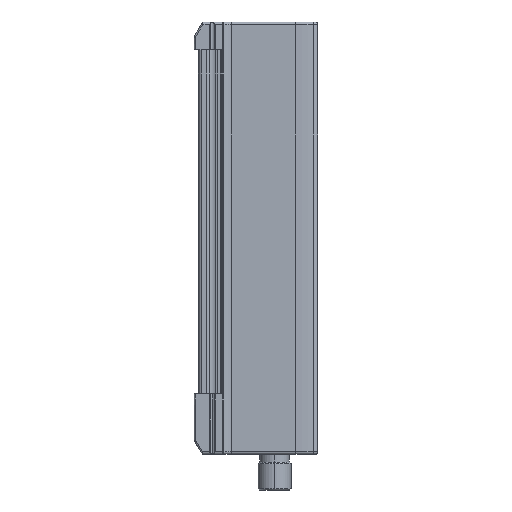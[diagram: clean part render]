
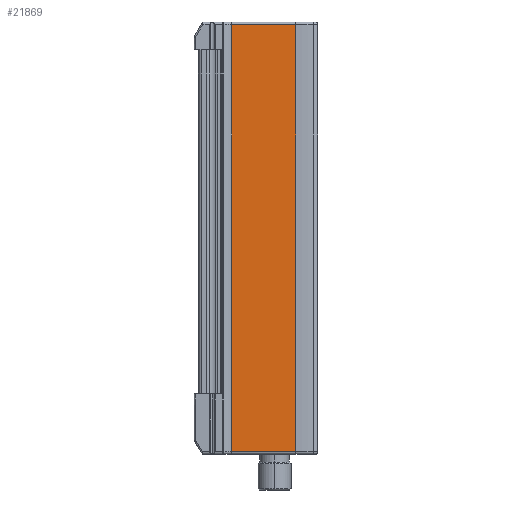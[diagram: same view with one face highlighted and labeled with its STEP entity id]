
A CAD part, left-side view. The second image highlights one B-rep face of the part: STEP entity #21869.
In plain terms, the highlighted planar face has unit normal (-1, 0, 0).
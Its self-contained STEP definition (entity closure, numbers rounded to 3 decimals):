
#315 = ORIENTED_EDGE ( 'NONE', *, *, #7257, .F. ) ;
#398 = CARTESIAN_POINT ( 'NONE',  ( -22.5, -14.5, -21. ) ) ;
#1053 = DIRECTION ( 'NONE',  ( 0., -1., 0. ) ) ;
#1140 = VERTEX_POINT ( 'NONE', #21117 ) ;
#2436 = EDGE_CURVE ( 'NONE', #24046, #11896, #24249, .T. ) ;
#3342 = EDGE_LOOP ( 'NONE', ( #315, #21255, #10866, #16208 ) ) ;
#3448 = EDGE_CURVE ( 'NONE', #11896, #18635, #11831, .T. ) ;
#3755 = CARTESIAN_POINT ( 'NONE',  ( -22.5, -14.5, 125. ) ) ;
#3853 = DIRECTION ( 'NONE',  ( 0., -1., 0. ) ) ;
#4259 = EDGE_CURVE ( 'NONE', #1140, #24046, #9877, .T. ) ;
#4496 = VECTOR ( 'NONE', #3853, 1000. ) ;
#7257 = EDGE_CURVE ( 'NONE', #1140, #18635, #14043, .T. ) ;
#9120 = FACE_OUTER_BOUND ( 'NONE', #3342, .T. ) ;
#9769 = DIRECTION ( 'NONE',  ( 0., 0., -1. ) ) ;
#9797 = CARTESIAN_POINT ( 'NONE',  ( -22.5, -14.5, -21. ) ) ;
#9877 = LINE ( 'NONE', #18139, #13647 ) ;
#10049 = VECTOR ( 'NONE', #9769, 1000. ) ;
#10866 = ORIENTED_EDGE ( 'NONE', *, *, #2436, .T. ) ;
#11099 = VECTOR ( 'NONE', #20274, 1000. ) ;
#11831 = LINE ( 'NONE', #9797, #4496 ) ;
#11896 = VERTEX_POINT ( 'NONE', #21349 ) ;
#13440 = CARTESIAN_POINT ( 'NONE',  ( -22.5, 8.8, 125. ) ) ;
#13647 = VECTOR ( 'NONE', #19914, 1000. ) ;
#14043 = LINE ( 'NONE', #3755, #11099 ) ;
#14333 = AXIS2_PLACEMENT_3D ( 'NONE', #24024, #17389, #1053 ) ;
#15508 = PLANE ( 'NONE',  #14333 ) ;
#16208 = ORIENTED_EDGE ( 'NONE', *, *, #3448, .T. ) ;
#17389 = DIRECTION ( 'NONE',  ( -1., 0., 0. ) ) ;
#18139 = CARTESIAN_POINT ( 'NONE',  ( -22.5, 8.8, 134.15 ) ) ;
#18635 = VERTEX_POINT ( 'NONE', #398 ) ;
#19914 = DIRECTION ( 'NONE',  ( 0., 1., 0. ) ) ;
#20274 = DIRECTION ( 'NONE',  ( 0., 0., -1. ) ) ;
#21117 = CARTESIAN_POINT ( 'NONE',  ( -22.5, -14.5, 134.15 ) ) ;
#21255 = ORIENTED_EDGE ( 'NONE', *, *, #4259, .T. ) ;
#21349 = CARTESIAN_POINT ( 'NONE',  ( -22.5, 8.8, -21. ) ) ;
#21869 = ADVANCED_FACE ( 'NONE', ( #9120 ), #15508, .T. ) ;
#24024 = CARTESIAN_POINT ( 'NONE',  ( -22.5, 0., 125. ) ) ;
#24046 = VERTEX_POINT ( 'NONE', #24711 ) ;
#24249 = LINE ( 'NONE', #13440, #10049 ) ;
#24711 = CARTESIAN_POINT ( 'NONE',  ( -22.5, 8.8, 134.15 ) ) ;
